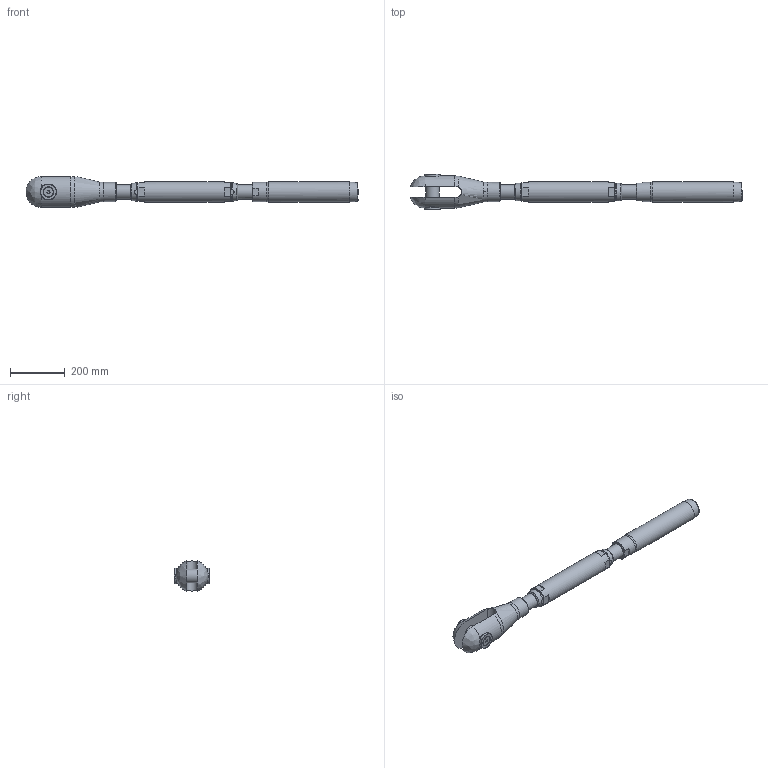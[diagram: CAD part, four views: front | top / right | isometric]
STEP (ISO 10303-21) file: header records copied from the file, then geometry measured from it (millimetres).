
FILE_DESCRIPTION(/* description */ (''),/* implementation_level */ '2;1');
FILE_NAME(/* name */ 'TBC 36_1,4462',/* time_stamp */ '2023-05-23T18:17:22+02:00',/* author */ (''),/* organization */ (''),/* preprocessor_version */ 'ST-DEVELOPER v16.5',/* originating_system */ 'Rhino 7.22',/* authorisation */ '');
FILE_SCHEMA (('CONFIG_CONTROL_DESIGN'));
Length unit declared in the file: millimetre
Products named in the file (1): Document
Bounding box: 1217.06 x 130.04 x 112.43 mm (x, y, z)
Volume: 5237442.3 mm3; surface area: 512848.8 mm2
Topology: 10 solids, 10 shells, 141 faces, 384 edges, 265 vertices
Faces by surface type: plane 65, bspline 41, cylinder 35
Full cylindrical faces by diameter (mm): 17.294 x2, 20 x2, 21 x2, 35.4 x2, 48.752 x4, 50 x1, 52 x4, 56 x1, 58 x2, 70 x2, 73.5 x1, 75 x1
Entity records: 5966 total; most frequent: CARTESIAN_POINT 3530, ORIENTED_EDGE 760, EDGE_CURVE 380, VERTEX_POINT 265, EDGE_LOOP 161, B_SPLINE_CURVE_WITH_KNOTS 158, ADVANCED_FACE 141, FACE_OUTER_BOUND 141
